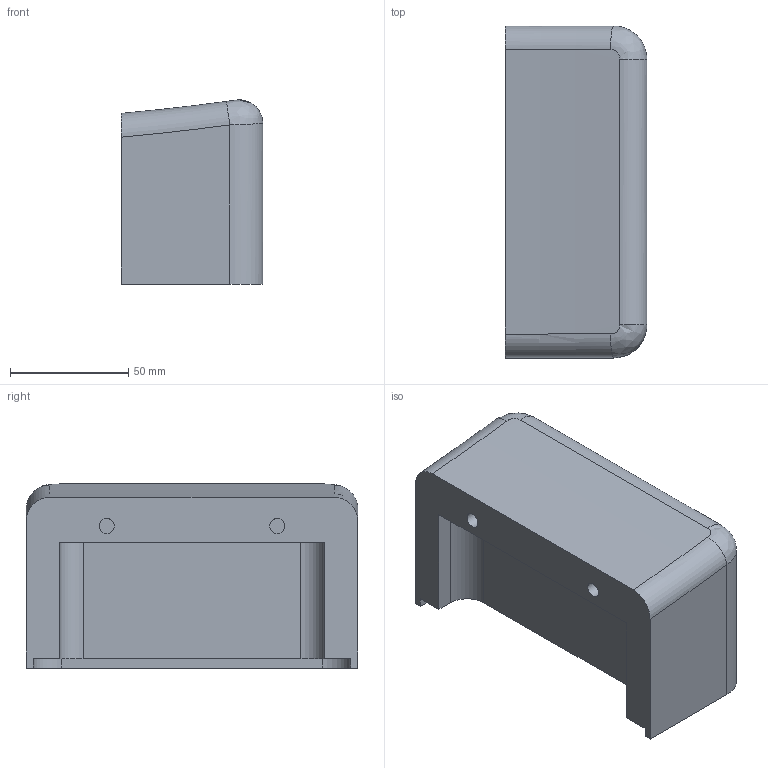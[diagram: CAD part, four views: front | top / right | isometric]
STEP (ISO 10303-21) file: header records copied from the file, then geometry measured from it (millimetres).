
FILE_DESCRIPTION(('Open CASCADE Model'),'2;1');
FILE_NAME('Open CASCADE Shape Model','2026-07-29T21:54:32',('Author'),( 'Open CASCADE'),'Open CASCADE STEP processor 7.9','Open CASCADE 7.9' ,'Unknown');
FILE_SCHEMA(('AUTOMOTIVE_DESIGN { 1 0 10303 214 1 1 1 1 }'));
Length unit declared in the file: millimetre
Products named in the file (1): split_v2_end_cap
Bounding box: 59.85 x 140 x 77.75 mm (x, y, z)
Volume: 510663.1 mm3; surface area: 46930.8 mm2
Topology: 1 solids, 1 shells, 37 faces, 95 edges, 62 vertices
Faces by surface type: plane 19, cylinder 14, torus 2, bspline 2
Full cylindrical faces by diameter (mm): 5.5 x2, 6 x2, 6.4 x2
Entity records: 3534 total; most frequent: CARTESIAN_POINT 1685, DIRECTION 312, ORIENTED_EDGE 190, PCURVE 190, DEFINITIONAL_REPRESENTATION 190, LINE 153, VECTOR 153, EDGE_CURVE 95
